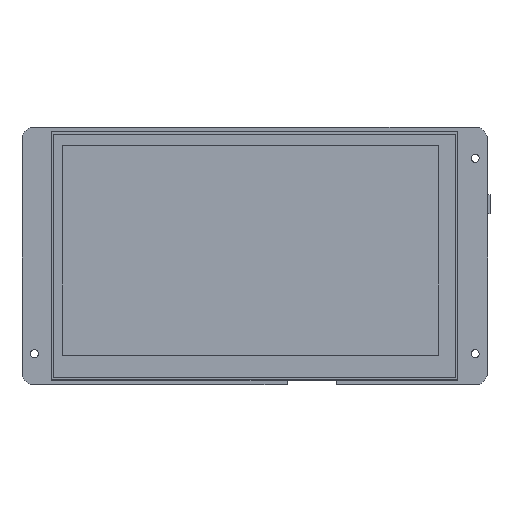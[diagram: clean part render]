
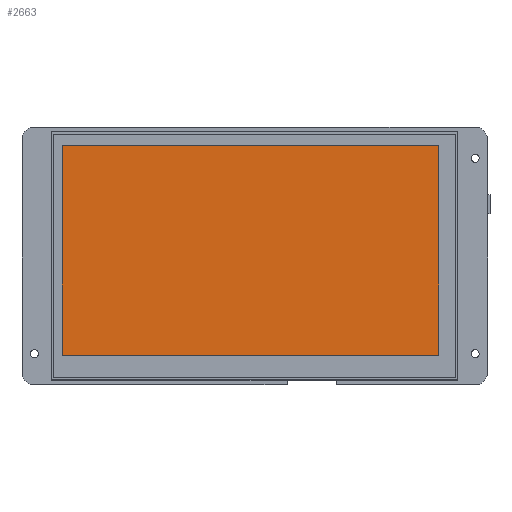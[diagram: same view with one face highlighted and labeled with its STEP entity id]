
A CAD part, top view. The second image highlights one B-rep face of the part: STEP entity #2663.
In plain terms, the highlighted planar face has unit normal (0, 0, 1).
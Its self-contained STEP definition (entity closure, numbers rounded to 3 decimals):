
#909=DIRECTION('',(1.,0.,0.));
#910=VECTOR('',#909,154.08);
#911=CARTESIAN_POINT('',(16.542,12.197,8.375));
#912=LINE('',#911,#910);
#913=DIRECTION('',(0.,-1.,0.));
#914=VECTOR('',#913,85.92);
#915=CARTESIAN_POINT('',(16.542,98.117,8.375));
#916=LINE('',#915,#914);
#917=DIRECTION('',(-1.,0.,0.));
#918=VECTOR('',#917,154.08);
#919=CARTESIAN_POINT('',(170.622,98.117,8.375));
#920=LINE('',#919,#918);
#921=DIRECTION('',(0.,1.,0.));
#922=VECTOR('',#921,85.92);
#923=CARTESIAN_POINT('',(170.622,12.197,8.375));
#924=LINE('',#923,#922);
#1061=CARTESIAN_POINT('',(16.542,12.197,8.375));
#1062=CARTESIAN_POINT('',(170.622,12.197,8.375));
#1063=VERTEX_POINT('',#1061);
#1064=VERTEX_POINT('',#1062);
#1065=CARTESIAN_POINT('',(170.622,98.117,8.375));
#1066=VERTEX_POINT('',#1065);
#1067=CARTESIAN_POINT('',(16.542,98.117,8.375));
#1068=VERTEX_POINT('',#1067);
#2652=CARTESIAN_POINT('',(0.,0.,8.375));
#2653=DIRECTION('',(0.,0.,1.));
#2654=DIRECTION('',(1.,0.,0.));
#2655=AXIS2_PLACEMENT_3D('',#2652,#2653,#2654);
#2656=PLANE('',#2655);
#2657=ORIENTED_EDGE('',*,*,#2604,.F.);
#2658=ORIENTED_EDGE('',*,*,#2619,.F.);
#2659=ORIENTED_EDGE('',*,*,#2633,.F.);
#2660=ORIENTED_EDGE('',*,*,#2646,.F.);
#2661=EDGE_LOOP('',(#2657,#2658,#2659,#2660));
#2662=FACE_OUTER_BOUND('',#2661,.F.);
#2604=EDGE_CURVE('',#1063,#1064,#912,.T.);
#2619=EDGE_CURVE('',#1068,#1063,#916,.T.);
#2633=EDGE_CURVE('',#1066,#1068,#920,.T.);
#2646=EDGE_CURVE('',#1064,#1066,#924,.T.);
#2663=ADVANCED_FACE('',(#2662),#2656,.T.);
